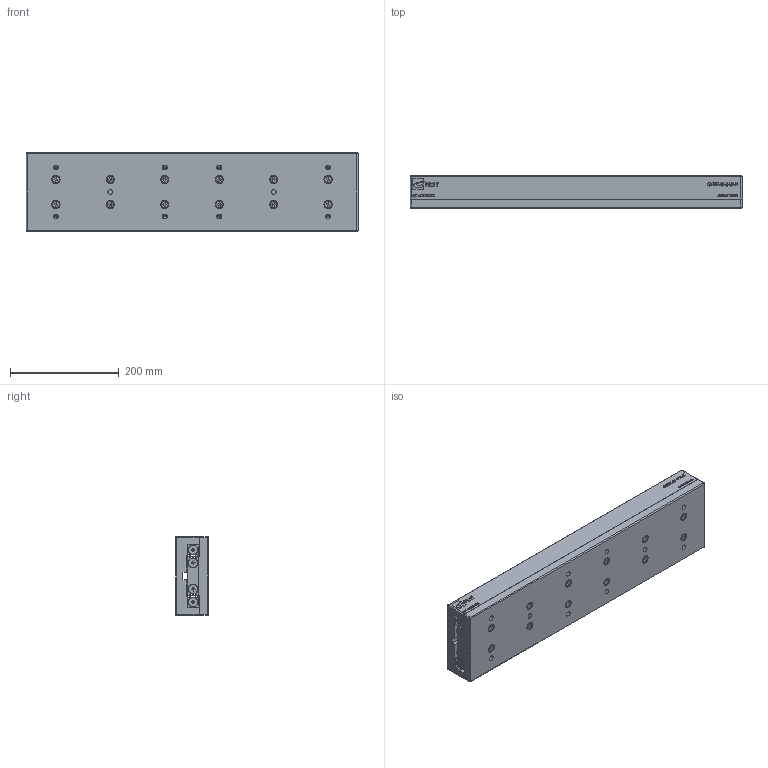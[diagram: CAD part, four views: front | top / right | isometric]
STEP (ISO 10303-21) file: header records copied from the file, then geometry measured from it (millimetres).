
FILE_DESCRIPTION (( 'STEP AP203' ), '1' );
FILE_NAME ('GRB145-610.STEP', '2012-10-19T08:02:39', ( '123' ), ( '' ), 'SwSTEP 2.0', 'SolidWorks 2012', '' );
FILE_SCHEMA (( 'CONFIG_CONTROL_DESIGN' ));
Length unit declared in the file: millimetre
Products named in the file (1): GRB145-610
Bounding box: 610 x 60 x 145 mm (x, y, z)
Surface area: 616765 mm2 (no closed solid volume)
Topology: 0 solids, 97 shells, 750 faces, 3474 edges, 2716 vertices
Faces by surface type: plane 428, cylinder 168, torus 80, cone 64, sphere 8, bspline 2
Entity records: 38768 total; most frequent: CARTESIAN_POINT 11411, DIRECTION 5409, ORIENTED_EDGE 4868, EDGE_CURVE 3418, VERTEX_POINT 2716, LINE 2173, VECTOR 2173, AXIS2_PLACEMENT_3D 1618
